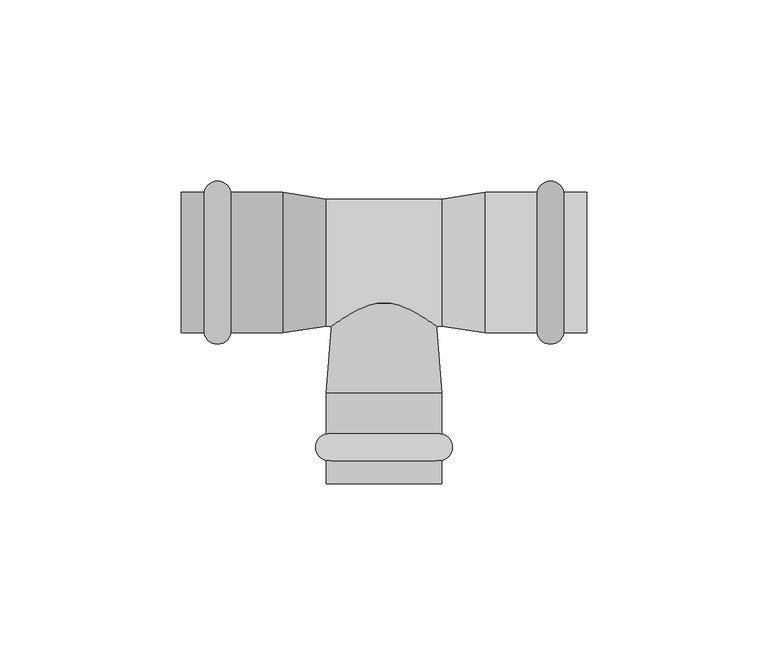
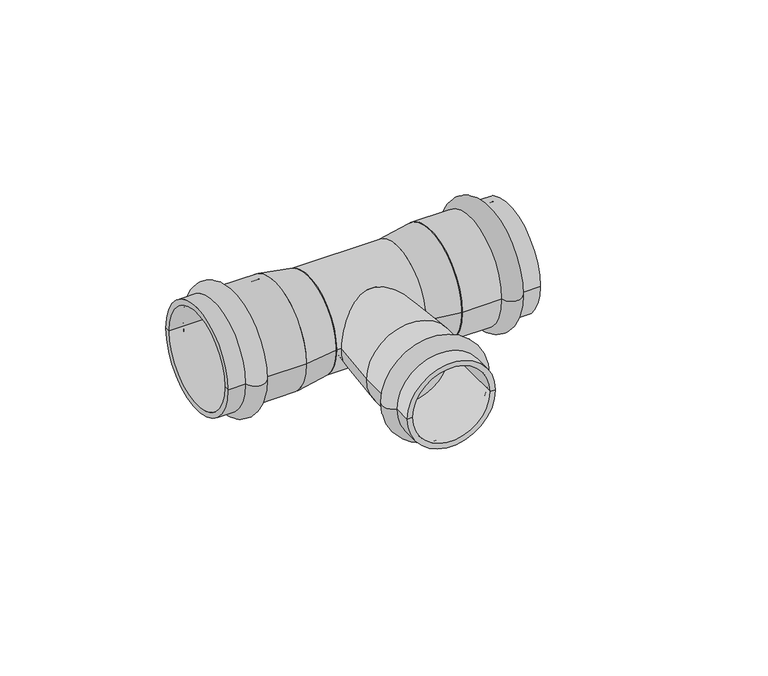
"""IFC4 building model written with IfcOpenShell, lengths in millimetres: pipe fitting geometry, VALTEC_VTi.931.I_Тройник_Ннержавеющая сталь : VTi.931.I."""

from ifc_helpers import new_model, si_unit, point, frame, origin, origin_2d, place, context, project, spatial, polyline, circle_curve, ellipse_curve, trimmed, segment, composite_curve, outline, extrude, source, transform, mapped, element, save
from ifc_brep_helpers import plane_surface, cylinder_surface, revolved_surface, advanced_brep


def pipe_fitting_7053485e(model_context):
    return source(origin(), model_context, "Body", "SolidModel", [
        advanced_brep(
        [(15.9, -54.6242346, 0.0), (-15.9, -54.6242346, 0.0), (-15.9, -47.2757654, 0.0), (15.9, -47.2757654, 0.0), (15.9, -61.0, 0.0), (-15.9, -61.0, 0.0), (14.0, -61.0, 0.0), (-14.0, -61.0, 0.0), (14.0, -36.0, 0.0), (-14.0, -36.0, 0.0), (15.9, -36.0, 0.0), (-15.9, -36.0, 0.0)],
        [
            (0, 1, circle_curve(frame((0.0, -54.6242346, 0.0), z_axis=(0.0, 1.0, 0.0), x_axis=(-1.0, 0.0, 0.0)), 15.9)),
            (1, 2, circle_curve(frame((-15.15, -50.95, 0.0), z_axis=(0.0, 0.0, -1.0), x_axis=(0.0, 1.0, 0.0)), 3.75)),
            (2, 3, circle_curve(frame((0.0, -47.2757654, 0.0), z_axis=(0.0, -1.0, 0.0), x_axis=(-1.0, 0.0, 0.0)), 15.9)),
            (3, 0, circle_curve(frame((15.15, -50.95, 0.0), z_axis=(0.0, 0.0, -1.0), x_axis=(0.0, 1.0, 0.0)), 3.75)),
            (1, 0, circle_curve(frame((0.0, -54.6242346, 0.0), z_axis=(0.0, 1.0, 0.0), x_axis=(-1.0, 0.0, 0.0)), 15.9)),
            (3, 2, circle_curve(frame((0.0, -47.2757654, 0.0), z_axis=(0.0, -1.0, 0.0), x_axis=(-1.0, 0.0, 0.0)), 15.9)),
            (4, 5, circle_curve(frame((0.0, -61.0, 0.0), z_axis=(0.0, 1.0, 0.0), x_axis=(-1.0, 0.0, 0.0)), 15.9)),
            (5, 1),
            (0, 4),
            (5, 4, circle_curve(frame((0.0, -61.0, 0.0), z_axis=(0.0, 1.0, 0.0), x_axis=(-1.0, 0.0, 0.0)), 15.9)),
            (6, 7, circle_curve(frame((0.0, -61.0, 0.0), z_axis=(0.0, 1.0, 0.0), x_axis=(-1.0, 0.0, 0.0)), 14.0)),
            (7, 5),
            (4, 6),
            (7, 6, circle_curve(frame((0.0, -61.0, 0.0), z_axis=(0.0, 1.0, 0.0), x_axis=(-1.0, 0.0, 0.0)), 14.0)),
            (8, 9, circle_curve(frame((0.0, -36.0, 0.0), z_axis=(0.0, 1.0, 0.0), x_axis=(-1.0, 0.0, 0.0)), 14.0)),
            (9, 7),
            (6, 8),
            (9, 8, circle_curve(frame((0.0, -36.0, 0.0), z_axis=(0.0, 1.0, 0.0), x_axis=(-1.0, 0.0, 0.0)), 14.0)),
            (10, 11, circle_curve(frame((0.0, -36.0, 0.0), z_axis=(0.0, 1.0, 0.0), x_axis=(-1.0, 0.0, 0.0)), 15.9)),
            (11, 9),
            (8, 10),
            (11, 10, circle_curve(frame((0.0, -36.0, 0.0), z_axis=(0.0, 1.0, 0.0), x_axis=(-1.0, 0.0, 0.0)), 15.9)),
            (2, 11),
            (10, 3),
        ],
        [
            revolved_surface(trimmed(ellipse_curve(frame((-15.15, -50.95, 0.0), z_axis=(0.0, 0.0, 1.0), x_axis=(0.0, 1.0, 0.0)), 3.75, 3.75), [point((-15.9, -47.2757654, 0.0))], [point((-15.9, -54.6242346, 0.0))], True, "CARTESIAN"), (0.0, -64.5364426, 0.0), (0.0, -1.0, 0.0)),
            cylinder_surface(frame((0.0, -64.5364426, 0.0), z_axis=(0.0, -1.0, 0.0), x_axis=(-1.0, 0.0, 0.0)), 15.9),
            plane_surface(frame((0.0, -61.0, 0.0), z_axis=(0.0, -1.0, 0.0), x_axis=(-1.0, 0.0, 0.0))),
            revolved_surface(polyline([(-14.0, -61.0, 0.0), (-14.0, -36.0, 0.0)]), (0.0, -64.5364426, 0.0), (0.0, -1.0, 0.0)),
            plane_surface(frame((0.0, -36.0, 0.0), z_axis=(0.0, 1.0, 0.0), x_axis=(-1.0, 0.0, 0.0))),
        ],
        [
            (0, [[1, 2, 3, 4]]),
            (0, [[5, -4, 6, -2]]),
            (1, [[7, 8, -1, 9]]),
            (1, [[10, -9, -5, -8]]),
            (2, [[11, 12, -7, 13]]),
            (2, [[14, -13, -10, -12]]),
            (3, [[15, 16, -11, 17]]),
            (3, [[18, -17, -14, -16]]),
            (4, [[19, 20, -15, 21]]),
            (4, [[22, -21, -18, -20]]),
            (1, [[-3, 23, -19, 24]]),
            (1, [[-6, -24, -22, -23]]),
        ],
    ),
        advanced_brep(
        [(49.6432371, 19.4, 0.0), (49.6432371, -19.4, 0.0), (42.2567629, -19.4, 0.0), (42.2567629, 19.4, 0.0), (56.0, 19.4, 0.0), (56.0, -19.4, 0.0), (56.0, 17.5, 0.0), (56.0, -17.5, 0.0), (28.0, 17.5, 0.0), (28.0, -17.5, 0.0), (28.0, 19.4, 0.0), (28.0, -19.4, 0.0)],
        [
            (0, 1, circle_curve(frame((49.6432371, 0.0, 0.0), z_axis=(-1.0, 0.0, 0.0), x_axis=(0.0, -1.0, 0.0)), 19.4)),
            (1, 2, circle_curve(frame((45.95, -18.75, 0.0), z_axis=(0.0, 0.0, -1.0), x_axis=(-1.0, 0.0, 0.0)), 3.75)),
            (2, 3, circle_curve(frame((42.2567629, 0.0, 0.0), z_axis=(1.0, 0.0, 0.0), x_axis=(0.0, -1.0, 0.0)), 19.4)),
            (3, 0, circle_curve(frame((45.95, 18.75, 0.0), z_axis=(0.0, 0.0, -1.0), x_axis=(-1.0, 0.0, 0.0)), 3.75)),
            (1, 0, circle_curve(frame((49.6432371, 0.0, 0.0), z_axis=(-1.0, 0.0, 0.0), x_axis=(0.0, -1.0, 0.0)), 19.4)),
            (3, 2, circle_curve(frame((42.2567629, 0.0, 0.0), z_axis=(1.0, 0.0, 0.0), x_axis=(0.0, -1.0, 0.0)), 19.4)),
            (4, 5, circle_curve(frame((56.0, 0.0, 0.0), z_axis=(-1.0, 0.0, 0.0), x_axis=(0.0, -1.0, 0.0)), 19.4)),
            (5, 1),
            (0, 4),
            (5, 4, circle_curve(frame((56.0, 0.0, 0.0), z_axis=(-1.0, 0.0, 0.0), x_axis=(0.0, -1.0, 0.0)), 19.4)),
            (6, 7, circle_curve(frame((56.0, 0.0, 0.0), z_axis=(-1.0, 0.0, 0.0), x_axis=(0.0, -1.0, 0.0)), 17.5)),
            (7, 5),
            (4, 6),
            (7, 6, circle_curve(frame((56.0, 0.0, 0.0), z_axis=(-1.0, 0.0, 0.0), x_axis=(0.0, -1.0, 0.0)), 17.5)),
            (8, 9, circle_curve(frame((28.0, 0.0, 0.0), z_axis=(-1.0, 0.0, 0.0), x_axis=(0.0, -1.0, 0.0)), 17.5)),
            (9, 7),
            (6, 8),
            (9, 8, circle_curve(frame((28.0, 0.0, 0.0), z_axis=(-1.0, 0.0, 0.0), x_axis=(0.0, -1.0, 0.0)), 17.5)),
            (10, 11, circle_curve(frame((28.0, 0.0, 0.0), z_axis=(-1.0, 0.0, 0.0), x_axis=(0.0, -1.0, 0.0)), 19.4)),
            (11, 9),
            (8, 10),
            (11, 10, circle_curve(frame((28.0, 0.0, 0.0), z_axis=(-1.0, 0.0, 0.0), x_axis=(0.0, -1.0, 0.0)), 19.4)),
            (2, 11),
            (10, 3),
        ],
        [
            revolved_surface(trimmed(ellipse_curve(frame((45.95, -18.75, 0.0), z_axis=(0.0, 0.0, 1.0), x_axis=(-1.0, 0.0, 0.0)), 3.75, 3.75), [point((42.2567629, -19.4, 0.0))], [point((49.6432371, -19.4, 0.0))], True, "CARTESIAN"), (59.5364426, 0.0, 0.0), (1.0, 0.0, 0.0)),
            cylinder_surface(frame((59.5364426, 0.0, 0.0), z_axis=(1.0, 0.0, 0.0), x_axis=(0.0, -1.0, 0.0)), 19.4),
            plane_surface(frame((56.0, 0.0, 0.0), z_axis=(1.0, 0.0, 0.0), x_axis=(0.0, -1.0, 0.0))),
            revolved_surface(polyline([(56.0, -17.5, 0.0), (28.0, -17.5, 0.0)]), (59.5364426, 0.0, 0.0), (1.0, 0.0, 0.0)),
            plane_surface(frame((28.0, 0.0, 0.0), z_axis=(-1.0, 0.0, 0.0), x_axis=(0.0, -1.0, 0.0))),
        ],
        [
            (0, [[1, 2, 3, 4]]),
            (0, [[5, -4, 6, -2]]),
            (1, [[7, 8, -1, 9]]),
            (1, [[10, -9, -5, -8]]),
            (2, [[11, 12, -7, 13]]),
            (2, [[14, -13, -10, -12]]),
            (3, [[15, 16, -11, 17]]),
            (3, [[18, -17, -14, -16]]),
            (4, [[19, 20, -15, 21]]),
            (4, [[22, -21, -18, -20]]),
            (1, [[-3, 23, -19, 24]]),
            (1, [[-6, -24, -22, -23]]),
        ],
    ),
        advanced_brep(
        [(-49.6432371, -19.4, 0.0), (-49.6432371, 19.4, 0.0), (-42.2567629, 19.4, 0.0), (-42.2567629, -19.4, 0.0), (-56.0, -19.4, 0.0), (-56.0, 19.4, 0.0), (-56.0, -17.5, 0.0), (-56.0, 17.5, 0.0), (-28.0, -17.5, 0.0), (-28.0, 17.5, 0.0), (-28.0, -19.4, 0.0), (-28.0, 19.4, 0.0)],
        [
            (0, 1, circle_curve(frame((-49.6432371, 0.0, 0.0), z_axis=(1.0, 0.0, 0.0), x_axis=(0.0, 1.0, 0.0)), 19.4)),
            (1, 2, circle_curve(frame((-45.95, 18.75, 0.0), z_axis=(0.0, 0.0, -1.0), x_axis=(1.0, 0.0, 0.0)), 3.75)),
            (2, 3, circle_curve(frame((-42.2567629, 0.0, 0.0), z_axis=(-1.0, 0.0, 0.0), x_axis=(0.0, 1.0, 0.0)), 19.4)),
            (3, 0, circle_curve(frame((-45.95, -18.75, 0.0), z_axis=(0.0, 0.0, -1.0), x_axis=(1.0, 0.0, 0.0)), 3.75)),
            (1, 0, circle_curve(frame((-49.6432371, 0.0, 0.0), z_axis=(1.0, 0.0, 0.0), x_axis=(0.0, 1.0, 0.0)), 19.4)),
            (3, 2, circle_curve(frame((-42.2567629, 0.0, 0.0), z_axis=(-1.0, 0.0, 0.0), x_axis=(0.0, 1.0, 0.0)), 19.4)),
            (4, 5, circle_curve(frame((-56.0, 0.0, 0.0), z_axis=(1.0, 0.0, 0.0), x_axis=(0.0, 1.0, 0.0)), 19.4)),
            (5, 1),
            (0, 4),
            (5, 4, circle_curve(frame((-56.0, 0.0, 0.0), z_axis=(1.0, 0.0, 0.0), x_axis=(0.0, 1.0, 0.0)), 19.4)),
            (6, 7, circle_curve(frame((-56.0, 0.0, 0.0), z_axis=(1.0, 0.0, 0.0), x_axis=(0.0, 1.0, 0.0)), 17.5)),
            (7, 5),
            (4, 6),
            (7, 6, circle_curve(frame((-56.0, 0.0, 0.0), z_axis=(1.0, 0.0, 0.0), x_axis=(0.0, 1.0, 0.0)), 17.5)),
            (8, 9, circle_curve(frame((-28.0, 0.0, 0.0), z_axis=(1.0, 0.0, 0.0), x_axis=(0.0, 1.0, 0.0)), 17.5)),
            (9, 7),
            (6, 8),
            (9, 8, circle_curve(frame((-28.0, 0.0, 0.0), z_axis=(1.0, 0.0, 0.0), x_axis=(0.0, 1.0, 0.0)), 17.5)),
            (10, 11, circle_curve(frame((-28.0, 0.0, 0.0), z_axis=(1.0, 0.0, 0.0), x_axis=(0.0, 1.0, 0.0)), 19.4)),
            (11, 9),
            (8, 10),
            (11, 10, circle_curve(frame((-28.0, 0.0, 0.0), z_axis=(1.0, 0.0, 0.0), x_axis=(0.0, 1.0, 0.0)), 19.4)),
            (2, 11),
            (10, 3),
        ],
        [
            revolved_surface(trimmed(ellipse_curve(frame((-45.95, 18.75, 0.0), z_axis=(0.0, 0.0, 1.0), x_axis=(1.0, 0.0, 0.0)), 3.75, 3.75), [point((-42.2567629, 19.4, 0.0))], [point((-49.6432371, 19.4, 0.0))], True, "CARTESIAN"), (-59.5364426, 0.0, 0.0), (-1.0, 0.0, 0.0)),
            cylinder_surface(frame((-59.5364426, 0.0, 0.0), z_axis=(-1.0, 0.0, 0.0), x_axis=(0.0, 1.0, 0.0)), 19.4),
            plane_surface(frame((-56.0, 0.0, 0.0), z_axis=(-1.0, 0.0, 0.0), x_axis=(0.0, 1.0, 0.0))),
            revolved_surface(polyline([(-56.0, 17.5, 0.0), (-28.0, 17.5, 0.0)]), (-59.5364426, 0.0, 0.0), (-1.0, 0.0, 0.0)),
            plane_surface(frame((-28.0, 0.0, 0.0), z_axis=(1.0, 0.0, 0.0), x_axis=(0.0, 1.0, 0.0))),
        ],
        [
            (0, [[1, 2, 3, 4]]),
            (0, [[5, -4, 6, -2]]),
            (1, [[7, 8, -1, 9]]),
            (1, [[10, -9, -5, -8]]),
            (2, [[11, 12, -7, 13]]),
            (2, [[14, -13, -10, -12]]),
            (3, [[15, 16, -11, 17]]),
            (3, [[18, -17, -14, -16]]),
            (4, [[19, 20, -15, 21]]),
            (4, [[22, -21, -18, -20]]),
            (1, [[-3, 23, -19, 24]]),
            (1, [[-6, -24, -22, -23]]),
        ],
    ),
        extrude(outline(composite_curve([segment(trimmed(circle_curve(origin_2d(), 17.5), [point((-17.5, 0.0))], [point((17.5, 0.0))], False, "CARTESIAN"), True, "CONTINUOUS"), segment(trimmed(circle_curve(origin_2d(), 17.5), [point((17.5, 0.0))], [point((-17.5, 0.0))], False, "CARTESIAN"), True, "CONTINUOUS")], self_intersect=False)), frame((-16.0, 0.0, 0.0), z_axis=(1.0, 0.0, 0.0), x_axis=(0.0, 1.0, 0.0)), (0.0, 0.0, 1.0), 32.0),
        advanced_brep(
        [(-15.9, -36.0, 0.0), (15.9, -36.0, 0.0), (-14.0, -11.3209826, 0.0), (14.0, -11.3209826, 0.0)],
        [
            (0, 1, circle_curve(frame((0.0, -36.0, 0.0), z_axis=(0.0, -1.0, 0.0), x_axis=(-1.0, 0.0, 0.0)), 15.9)),
            (1, 0, circle_curve(frame((0.0, -36.0, 0.0), z_axis=(0.0, -1.0, 0.0), x_axis=(1.0, 0.0, 0.0)), 15.9)),
            (2, 3, circle_curve(frame((0.0, -11.3209826, 0.0), z_axis=(0.0, 1.0, 0.0), x_axis=(1.0, 0.0, 0.0)), 14.0)),
            (3, 2, circle_curve(frame((0.0, -11.3209826, 0.0), z_axis=(0.0, 1.0, 0.0), x_axis=(-1.0, 0.0, 0.0)), 14.0)),
            (3, 1),
            (0, 2),
        ],
        [
            plane_surface(frame((0.0, -36.0, 0.0), z_axis=(0.0, -1.0, 0.0), x_axis=(0.0, 0.0, 1.0))),
            plane_surface(frame((0.0, -11.3209826, 0.0), z_axis=(0.0, 1.0, 0.0), x_axis=(0.0, 0.0, 1.0))),
            revolved_surface(polyline([(14.000000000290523, -11.320982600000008, 0.0), (15.9, -36.0, 0.0)]), (0.0, 170.5244088, 0.0), (0.0, -1.0, 0.0)),
            revolved_surface(polyline([(-14.000000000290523, -11.320982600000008, 0.0), (-15.9, -36.0, 0.0)]), (0.0, 170.5244088, 0.0), (0.0, -1.0, 0.0)),
        ],
        [
            (0, [[1, 2]]),
            (1, [[3, 4]]),
            (2, [[-4, 5, -1, 6]]),
            (3, [[-3, -6, -2, -5]]),
        ],
    ),
        extrude(outline(composite_curve([segment(trimmed(circle_curve(origin_2d(), 14.0), [point((0.0, -14.0))], [point((0.0, 14.0))], False, "CARTESIAN"), True, "CONTINUOUS"), segment(trimmed(circle_curve(origin_2d(), 14.0), [point((0.0, 14.0))], [point((0.0, -14.0))], False, "CARTESIAN"), True, "CONTINUOUS")], self_intersect=False)), frame((0.0, -11.3209826, 0.0), z_axis=(0.0, 1.0, 0.0), x_axis=(0.0, 0.0, 1.0)), (0.0, 0.0, 1.0), 11.3209826),
        advanced_brep(
        [(28.0, -19.4, 0.0), (28.0, 19.4, 0.0), (16.0, -17.5, 0.0), (16.0, 17.5, 0.0)],
        [
            (0, 1, circle_curve(frame((28.0, 0.0, 0.0), z_axis=(1.0, 0.0, 0.0), x_axis=(0.0, -1.0, 0.0)), 19.4)),
            (1, 0, circle_curve(frame((28.0, 0.0, 0.0), z_axis=(1.0, 0.0, 0.0), x_axis=(0.0, 1.0, 0.0)), 19.4)),
            (2, 3, circle_curve(frame((16.0, 0.0, 0.0), z_axis=(-1.0, 0.0, 0.0), x_axis=(0.0, 1.0, 0.0)), 17.5)),
            (3, 2, circle_curve(frame((16.0, 0.0, 0.0), z_axis=(-1.0, 0.0, 0.0), x_axis=(0.0, -1.0, 0.0)), 17.5)),
            (3, 1),
            (0, 2),
        ],
        [
            plane_surface(frame((28.0, 0.0, 0.0), z_axis=(1.0, 0.0, 0.0), x_axis=(0.0, 0.0, 1.0))),
            plane_surface(frame((16.0, 0.0, 0.0), z_axis=(-1.0, 0.0, 0.0), x_axis=(0.0, 0.0, 1.0))),
            revolved_surface(polyline([(16.0, 17.50000000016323, 0.0), (28.0, 19.4, 0.0)]), (-94.5263158, 0.0, 0.0), (1.0, 0.0, 0.0)),
            revolved_surface(polyline([(16.0, -17.50000000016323, 0.0), (28.0, -19.4, 0.0)]), (-94.5263158, 0.0, 0.0), (1.0, 0.0, 0.0)),
        ],
        [
            (0, [[1, 2]]),
            (1, [[3, 4]]),
            (2, [[-4, 5, -1, 6]]),
            (3, [[-3, -6, -2, -5]]),
        ],
    ),
        advanced_brep(
        [(-28.0, -19.4, 0.0), (-28.0, 19.4, 0.0), (-16.0, -17.5, 0.0), (-16.0, 17.5, 0.0)],
        [
            (0, 1, circle_curve(frame((-28.0, 0.0, 0.0), z_axis=(-1.0, 0.0, 0.0), x_axis=(0.0, -1.0, 0.0)), 19.4)),
            (1, 0, circle_curve(frame((-28.0, 0.0, 0.0), z_axis=(-1.0, 0.0, 0.0), x_axis=(0.0, 1.0, 0.0)), 19.4)),
            (2, 3, circle_curve(frame((-16.0, 0.0, 0.0), z_axis=(1.0, 0.0, 0.0), x_axis=(0.0, 1.0, 0.0)), 17.5)),
            (3, 2, circle_curve(frame((-16.0, 0.0, 0.0), z_axis=(1.0, 0.0, 0.0), x_axis=(0.0, -1.0, 0.0)), 17.5)),
            (2, 0),
            (1, 3),
        ],
        [
            plane_surface(frame((-28.0, 0.0, 0.0), z_axis=(-1.0, 0.0, 0.0), x_axis=(0.0, 0.0, -1.0))),
            plane_surface(frame((-16.0, 0.0, 0.0), z_axis=(1.0, 0.0, 0.0), x_axis=(0.0, 0.0, -1.0))),
            revolved_surface(polyline([(-16.0, -17.50000000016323, 0.0), (-28.0, -19.4, 0.0)]), (94.5263158, 0.0, 0.0), (-1.0, 0.0, 0.0)),
            revolved_surface(polyline([(-16.0, 17.50000000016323, 0.0), (-28.0, 19.4, 0.0)]), (94.5263158, 0.0, 0.0), (-1.0, 0.0, 0.0)),
        ],
        [
            (0, [[1, 2]]),
            (1, [[3, 4]]),
            (2, [[-3, 5, -2, 6]]),
            (3, [[-4, -6, -1, -5]]),
        ],
    ),
    ])


if __name__ == "__main__":
    model = new_model("IFC4")
    model_context = context("Model", 3, world=origin())
    ifc_project = project(units=[si_unit("LENGTHUNIT", "METRE", prefix="MILLI")], contexts=[model_context])
    site = spatial("IfcSite", under=ifc_project)
    building = spatial("IfcBuilding", under=site)
    placement = place(None, origin())
    pipe_fitting_shape = pipe_fitting_7053485e(model_context)
    element("IfcPipeFitting", 1, ObjectType="VALTEC_VTi.931.I_Тройник_Ннержавеющая сталь : VTi.931.I", at=placement, inside=building, context=model_context, shape_type="MappedRepresentation", body=[
        mapped(pipe_fitting_shape, transform((0.0, 0.0, 0.0), x_axis=(1.0, 0.0, 0.0), y_axis=(0.0, 1.0, 0.0), z_axis=(0.0, 0.0, 1.0))),
    ])
    save(model, "model.ifc")
